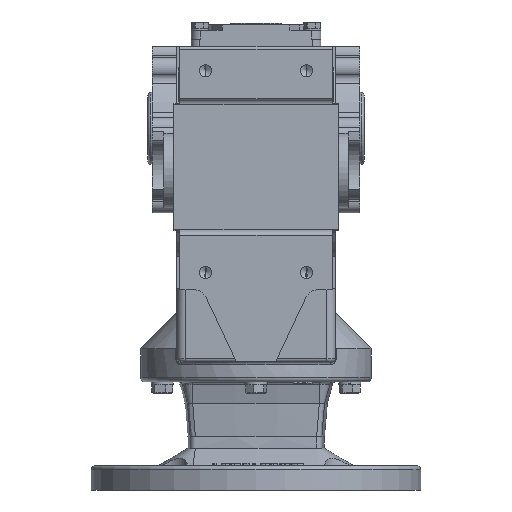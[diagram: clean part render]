
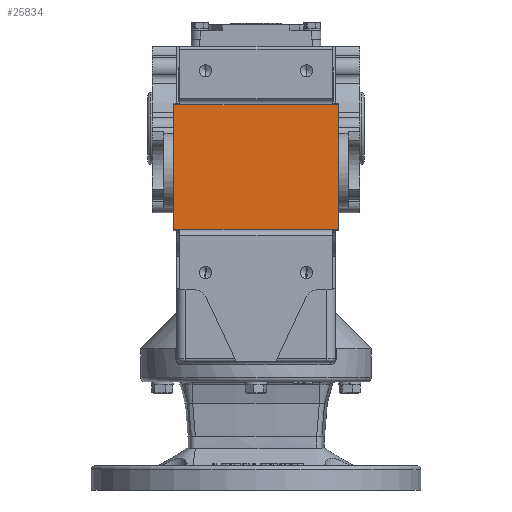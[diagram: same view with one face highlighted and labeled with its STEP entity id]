
A CAD part, front view. The second image highlights one B-rep face of the part: STEP entity #25834.
In plain terms, the highlighted planar face has unit normal (0, -1, 0).
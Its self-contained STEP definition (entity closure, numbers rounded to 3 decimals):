
#10756 = CARTESIAN_POINT ( 'NONE',  ( 57., -107., -69.5 ) ) ;
#10759 = CARTESIAN_POINT ( 'NONE',  ( 57.101, -107., -70.5 ) ) ;
#10760 = CARTESIAN_POINT ( 'NONE',  ( -57., -107., -70.5 ) ) ;
#10761 = CARTESIAN_POINT ( 'NONE',  ( -57., -107., 16.5 ) ) ;
#10762 = CARTESIAN_POINT ( 'NONE',  ( 57.101, -107., 16.5 ) ) ;
#10831 = CARTESIAN_POINT ( 'NONE',  ( 57., -107., 15.5 ) ) ;
#13413 = CARTESIAN_POINT ( 'NONE',  ( 80., -107., -70.5 ) ) ;
#13428 = PLANE ( 'NONE',  #20408 ) ;
#13432 = DIRECTION ( 'NONE',  ( 0., 1., 0. ) ) ;
#13434 = DIRECTION ( 'NONE',  ( -1., 0., 0. ) ) ;
#17765 = EDGE_CURVE ( 'NONE', #41495, #41369, #34792, .T. ) ;
#17769 = EDGE_CURVE ( 'NONE', #41495, #41361, #34802, .T. ) ;
#17770 = EDGE_CURVE ( 'NONE', #41365, #41367, #34803, .T. ) ;
#17771 = EDGE_CURVE ( 'NONE', #41365, #41361, #34806, .T. ) ;
#17779 = EDGE_CURVE ( 'NONE', #41367, #41368, #34839, .T. ) ;
#17783 = EDGE_CURVE ( 'NONE', #41369, #41368, #34847, .T. ) ;
#19376 = EDGE_LOOP ( 'NONE', ( #24312, #24408, #24511, #24342, #24509, #24510 ) ) ;
#20408 = AXIS2_PLACEMENT_3D ( 'NONE', #13413, #13432, #13434 ) ;
#24312 = ORIENTED_EDGE ( 'NONE', *, *, #17783, .T. ) ;
#24342 = ORIENTED_EDGE ( 'NONE', *, *, #17771, .T. ) ;
#24408 = ORIENTED_EDGE ( 'NONE', *, *, #17779, .F. ) ;
#24509 = ORIENTED_EDGE ( 'NONE', *, *, #17769, .F. ) ;
#24510 = ORIENTED_EDGE ( 'NONE', *, *, #17765, .T. ) ;
#24511 = ORIENTED_EDGE ( 'NONE', *, *, #17770, .F. ) ;
#25834 = ADVANCED_FACE ( 'NONE', ( #36469 ), #13428, .F. ) ;
#31334 = AXIS2_PLACEMENT_3D ( 'NONE', #41244, #42052, #41331 ) ;
#31337 = AXIS2_PLACEMENT_3D ( 'NONE', #41320, #42240, #41851 ) ;
#34792 = CIRCLE ( 'NONE', #31337, 5. ) ;
#34802 = LINE ( 'NONE', #41529, #34804 ) ;
#34803 = LINE ( 'NONE', #41608, #34809 ) ;
#34804 = VECTOR ( 'NONE', #41980, 1000. ) ;
#34806 = CIRCLE ( 'NONE', #31334, 5. ) ;
#34809 = VECTOR ( 'NONE', #41612, 1000. ) ;
#34839 = LINE ( 'NONE', #40974, #34844 ) ;
#34844 = VECTOR ( 'NONE', #41124, 1000. ) ;
#34847 = LINE ( 'NONE', #41016, #34857 ) ;
#34857 = VECTOR ( 'NONE', #41673, 1000. ) ;
#36469 = FACE_OUTER_BOUND ( 'NONE', #19376, .T. ) ;
#40974 = CARTESIAN_POINT ( 'NONE',  ( -57., -107., -69.5 ) ) ;
#41016 = CARTESIAN_POINT ( 'NONE',  ( 80., -107., 16.5 ) ) ;
#41124 = DIRECTION ( 'NONE',  ( 0., 0., 1. ) ) ;
#41244 = CARTESIAN_POINT ( 'NONE',  ( 62., -107., -69.5 ) ) ;
#41320 = CARTESIAN_POINT ( 'NONE',  ( 62., -107., 15.5 ) ) ;
#41331 = DIRECTION ( 'NONE',  ( -1., 0., 0. ) ) ;
#41361 = VERTEX_POINT ( 'NONE', #10756 ) ;
#41365 = VERTEX_POINT ( 'NONE', #10759 ) ;
#41367 = VERTEX_POINT ( 'NONE', #10760 ) ;
#41368 = VERTEX_POINT ( 'NONE', #10761 ) ;
#41369 = VERTEX_POINT ( 'NONE', #10762 ) ;
#41495 = VERTEX_POINT ( 'NONE', #10831 ) ;
#41529 = CARTESIAN_POINT ( 'NONE',  ( 57., -107., 16.5 ) ) ;
#41608 = CARTESIAN_POINT ( 'NONE',  ( 80., -107., -70.5 ) ) ;
#41612 = DIRECTION ( 'NONE',  ( -1., 0., 0. ) ) ;
#41673 = DIRECTION ( 'NONE',  ( -1., 0., 0. ) ) ;
#41851 = DIRECTION ( 'NONE',  ( -1., 0., 0. ) ) ;
#41980 = DIRECTION ( 'NONE',  ( 0., 0., -1. ) ) ;
#42052 = DIRECTION ( 'NONE',  ( 0., 1., 0. ) ) ;
#42240 = DIRECTION ( 'NONE',  ( 0., 1., 0. ) ) ;
